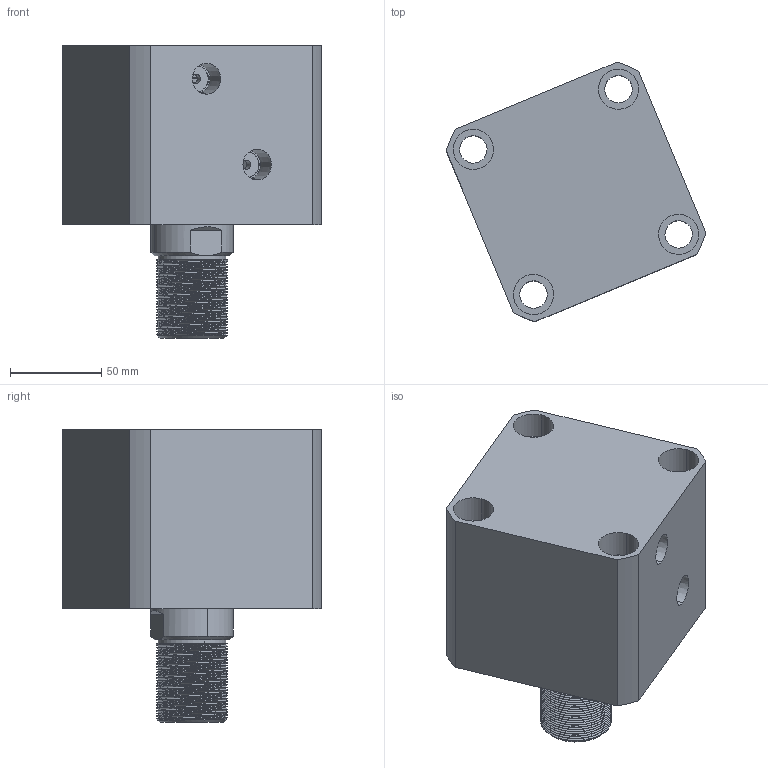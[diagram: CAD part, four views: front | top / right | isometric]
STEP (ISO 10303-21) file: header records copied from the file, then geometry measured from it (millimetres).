
FILE_DESCRIPTION (( 'STEP AP214' ), '1' );
FILE_NAME ('chtb-sd80x20n_asm.STEP', '2018-05-26T09:18:29', ( 'Windows' ), ( 'Microsoft' ), 'SwSTEP 2.0', 'SolidWorks 2015', '' );
FILE_SCHEMA (( 'AUTOMOTIVE_DESIGN' ));
Length unit declared in the file: millimetre
Products named in the file (4): CHTB-SD80X20NHSG; CHTB-SD80X20NBT; CHTB-SD80QG; chtb-sd80x20n_asm
Assembly tree (3 placements, depth 2):
  chtb-sd80x20n_asm
    CHTB-SD80QG
    CHTB-SD80X20NBT
    CHTB-SD80X20NHSG
Bounding box: 142.06 x 142.06 x 160 mm (x, y, z)
Volume: 1151188.5 mm3; surface area: 176705.5 mm2
Topology: 3 solids, 3 shells, 253 faces, 689 edges, 462 vertices
Faces by surface type: cylinder 159, plane 40, cone 20, torus 18, bspline 16
Entity records: 20271 total; most frequent: CARTESIAN_POINT 14293, ORIENTED_EDGE 1370, DIRECTION 1078, EDGE_CURVE 685, VERTEX_POINT 462, AXIS2_PLACEMENT_3D 439, EDGE_LOOP 291, ADVANCED_FACE 253
